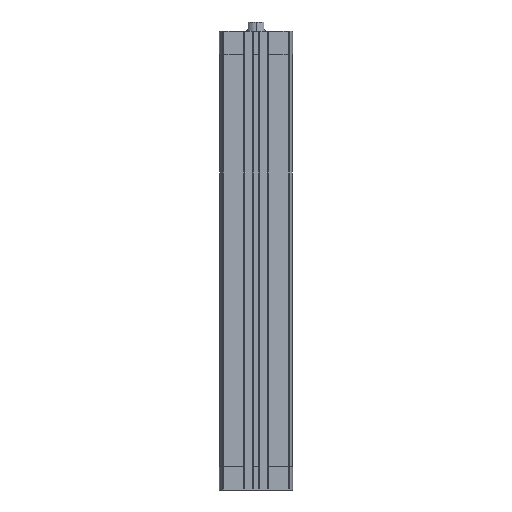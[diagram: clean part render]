
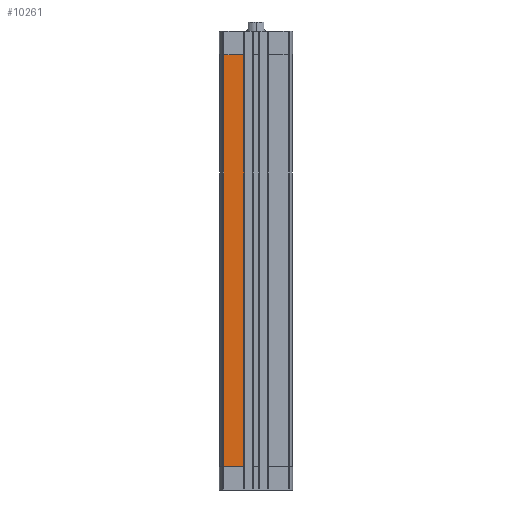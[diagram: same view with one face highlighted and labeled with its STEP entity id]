
A CAD part, left-side view. The second image highlights one B-rep face of the part: STEP entity #10261.
In plain terms, the highlighted planar face has unit normal (-1, 0, 0).
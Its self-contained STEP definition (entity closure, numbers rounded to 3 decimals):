
#529 = DIRECTION ( 'NONE',  ( 0., 1., 0. ) ) ;
#552 = CARTESIAN_POINT ( 'NONE',  ( -23.25, 20.543, -279. ) ) ;
#984 = AXIS2_PLACEMENT_3D ( 'NONE', #552, #10298, #3001 ) ;
#1136 = VERTEX_POINT ( 'NONE', #7039 ) ;
#2229 = CARTESIAN_POINT ( 'NONE',  ( -23.25, 7.95, -15. ) ) ;
#2646 = VECTOR ( 'NONE', #12324, 1000. ) ;
#3001 = DIRECTION ( 'NONE',  ( 0., 0., 1. ) ) ;
#3276 = VECTOR ( 'NONE', #10231, 1000. ) ;
#3666 = CARTESIAN_POINT ( 'NONE',  ( -23.25, 20.543, -15. ) ) ;
#3777 = EDGE_CURVE ( 'NONE', #11757, #3785, #12540, .T. ) ;
#3785 = VERTEX_POINT ( 'NONE', #7871 ) ;
#3868 = CARTESIAN_POINT ( 'NONE',  ( -23.25, 7.95, -279. ) ) ;
#4225 = CARTESIAN_POINT ( 'NONE',  ( -23.25, 20.543, -279. ) ) ;
#4658 = EDGE_CURVE ( 'NONE', #3785, #1136, #8777, .T. ) ;
#5492 = EDGE_LOOP ( 'NONE', ( #11226, #11730, #8032, #10949 ) ) ;
#6118 = EDGE_CURVE ( 'NONE', #12635, #1136, #15041, .T. ) ;
#6338 = CARTESIAN_POINT ( 'NONE',  ( -23.25, 20.543, -279. ) ) ;
#6827 = FACE_OUTER_BOUND ( 'NONE', #5492, .T. ) ;
#7039 = CARTESIAN_POINT ( 'NONE',  ( -23.25, 7.95, -279. ) ) ;
#7305 = LINE ( 'NONE', #7820, #13646 ) ;
#7566 = DIRECTION ( 'NONE',  ( 0., -1., 0. ) ) ;
#7820 = CARTESIAN_POINT ( 'NONE',  ( -23.25, 0., -15. ) ) ;
#7871 = CARTESIAN_POINT ( 'NONE',  ( -23.25, 20.543, -279. ) ) ;
#8032 = ORIENTED_EDGE ( 'NONE', *, *, #14391, .T. ) ;
#8777 = LINE ( 'NONE', #6338, #11988 ) ;
#9077 = PLANE ( 'NONE',  #984 ) ;
#10231 = DIRECTION ( 'NONE',  ( 0., 0., -1. ) ) ;
#10261 = ADVANCED_FACE ( 'NONE', ( #6827 ), #9077, .T. ) ;
#10298 = DIRECTION ( 'NONE',  ( -1., 0., 0. ) ) ;
#10949 = ORIENTED_EDGE ( 'NONE', *, *, #3777, .T. ) ;
#11226 = ORIENTED_EDGE ( 'NONE', *, *, #4658, .T. ) ;
#11730 = ORIENTED_EDGE ( 'NONE', *, *, #6118, .F. ) ;
#11757 = VERTEX_POINT ( 'NONE', #3666 ) ;
#11988 = VECTOR ( 'NONE', #7566, 1000. ) ;
#12324 = DIRECTION ( 'NONE',  ( 0., 0., -1. ) ) ;
#12540 = LINE ( 'NONE', #4225, #3276 ) ;
#12635 = VERTEX_POINT ( 'NONE', #2229 ) ;
#13646 = VECTOR ( 'NONE', #529, 1000. ) ;
#14391 = EDGE_CURVE ( 'NONE', #12635, #11757, #7305, .T. ) ;
#15041 = LINE ( 'NONE', #3868, #2646 ) ;
